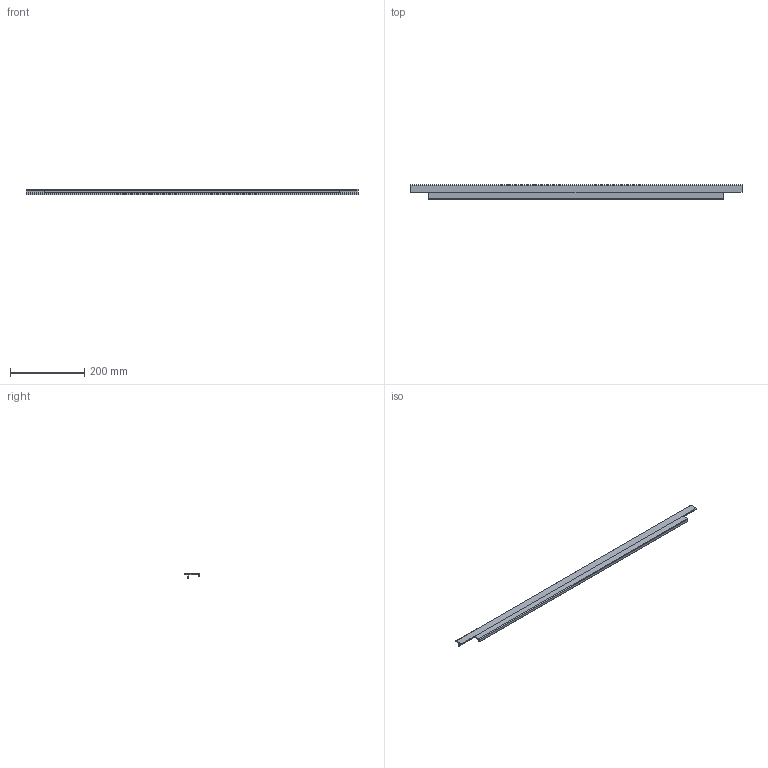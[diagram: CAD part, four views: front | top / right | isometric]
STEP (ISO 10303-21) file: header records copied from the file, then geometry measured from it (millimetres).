
FILE_DESCRIPTION( ( '' ), '1' );
FILE_NAME( 'C:/Documents and Settings/Nikhil/Desktop/Nik/Done/9105824.stp', '2013-10-23T08:16:12', ( '' ), ( '' ), ' ', ' ', ' ' );
FILE_SCHEMA( ( 'automotive_design' ) );
Length unit declared in the file: millimetre
Products named in the file (1): 1
Bounding box: 895 x 39 x 14 mm (x, y, z)
Volume: 132144.9 mm3; surface area: 100400.1 mm2
Topology: 1 solids, 1 shells, 40 faces, 112 edges, 74 vertices
Faces by surface type: plane 30, cylinder 10
Entity records: 2554 total; most frequent: STYLED_ITEM 227, PRESENTATION_STYLE_ASSIGNMENT 227, CARTESIAN_POINT 227, COLOUR_RGB 227, ORIENTED_EDGE 224, DIRECTION 214, EDGE_CURVE 112, CURVE_STYLE 112
